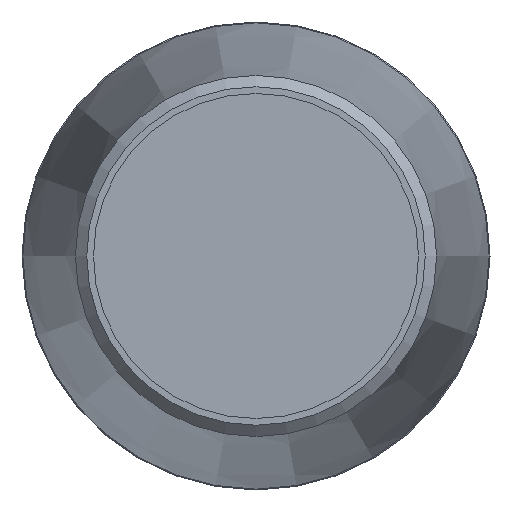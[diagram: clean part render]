
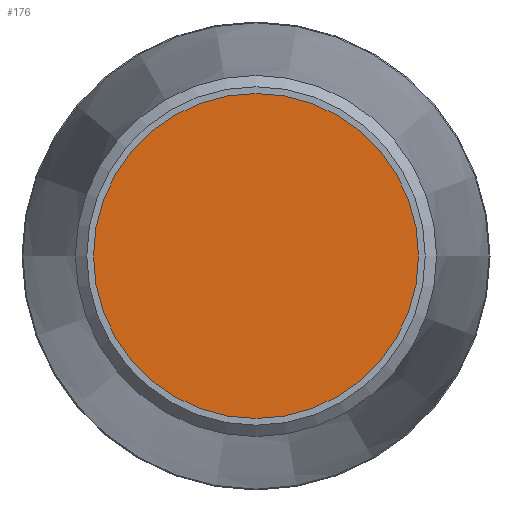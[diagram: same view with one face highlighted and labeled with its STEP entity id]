
A CAD part, left-side view. The second image highlights one B-rep face of the part: STEP entity #176.
In plain terms, the highlighted planar face has unit normal (-1, 0, 0).
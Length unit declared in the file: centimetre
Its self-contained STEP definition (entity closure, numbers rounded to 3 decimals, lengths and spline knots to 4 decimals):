
#18=PLANE('',#199);
#39=FACE_OUTER_BOUND('',#59,.T.);
#59=EDGE_LOOP('',(#129));
#82=CIRCLE('',#198,3.125);
#96=VERTEX_POINT('',#293);
#110=EDGE_CURVE('',#96,#96,#82,.T.);
#129=ORIENTED_EDGE('',*,*,#110,.T.);
#176=ADVANCED_FACE('',(#39),#18,.T.);
#198=AXIS2_PLACEMENT_3D('',#294,#239,#240);
#199=AXIS2_PLACEMENT_3D('',#295,#241,#242);
#239=DIRECTION('center_axis',(-1.,0.,0.));
#240=DIRECTION('ref_axis',(0.,0.,1.));
#241=DIRECTION('center_axis',(-1.,0.,0.));
#242=DIRECTION('ref_axis',(0.,0.,1.));
#293=CARTESIAN_POINT('',(-18.4,-3.125,0.));
#294=CARTESIAN_POINT('Origin',(-18.4,0.,0.));
#295=CARTESIAN_POINT('Origin',(-18.4,0.,0.));
